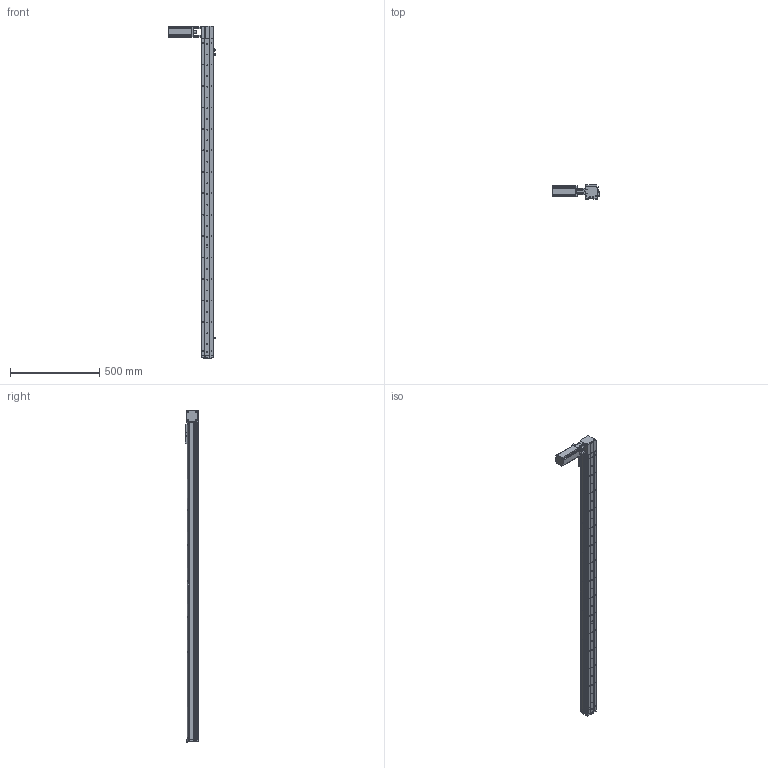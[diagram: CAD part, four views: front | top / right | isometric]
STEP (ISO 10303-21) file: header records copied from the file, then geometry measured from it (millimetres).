
FILE_DESCRIPTION (( 'STEP AP214' ), '1' );
FILE_NAME ('KSD68BS-S1600-MLT-CR.STEP', '2019-08-28T03:55:39', ( '微软用户' ), ( '微软中国' ), 'SwSTEP 2.0', 'SolidWorks 2014', '' );
FILE_SCHEMA (( 'AUTOMOTIVE_DESIGN' ));
Length unit declared in the file: millimetre
Products named in the file (13): 68宽单导轨全封闭同步带端板; 68单导轨全封闭同步带电机座右; 68单导轨全封闭同步带安装板; 感应片68宽全封闭; U倰嫖萇EEㄜSX672; 台达ECMA－C20604AS伺服电机（400W); KSD68BS 1600行程底板全封闭; KSD68BS-S1600-MLT-CR; 100遵鎮湛假蚾啣1; KSD68BS 1600行程盖板全封闭; 68遵裔啣揤啣1; 68宽单导轨全封闭丝杆传动安装板1防护罩; KSD68BS 1600行程侧板全封闭
Assembly tree (16 placements, depth 2):
  KSD68BS-S1600-MLT-CR
    KSD68BS 1600行程底板全封闭
    台达ECMA－C20604AS伺服电机（400W)
    U倰嫖萇EEㄜSX672  x3
    感应片68宽全封闭
    68单导轨全封闭同步带安装板
    68单导轨全封闭同步带电机座右
    68宽单导轨全封闭同步带端板
    KSD68BS 1600行程侧板全封闭  x2
    68宽单导轨全封闭丝杆传动安装板1防护罩
    68遵裔啣揤啣1  x2
    KSD68BS 1600行程盖板全封闭
    100遵鎮湛假蚾啣1
Bounding box: 266.4 x 77 x 1858.1 mm (x, y, z)
Volume: 3294303 mm3; surface area: 1315111 mm2
Topology: 17 solids, 17 shells, 1548 faces, 4464 edges, 2839 vertices
Faces by surface type: cylinder 756, plane 604, cone 188
Entity records: 50493 total; most frequent: CARTESIAN_POINT 8731, DIRECTION 7456, ORIENTED_EDGE 7132, EDGE_CURVE 3566, AXIS2_PLACEMENT_3D 2722, VERTEX_POINT 2337, LINE 2012, VECTOR 2012
